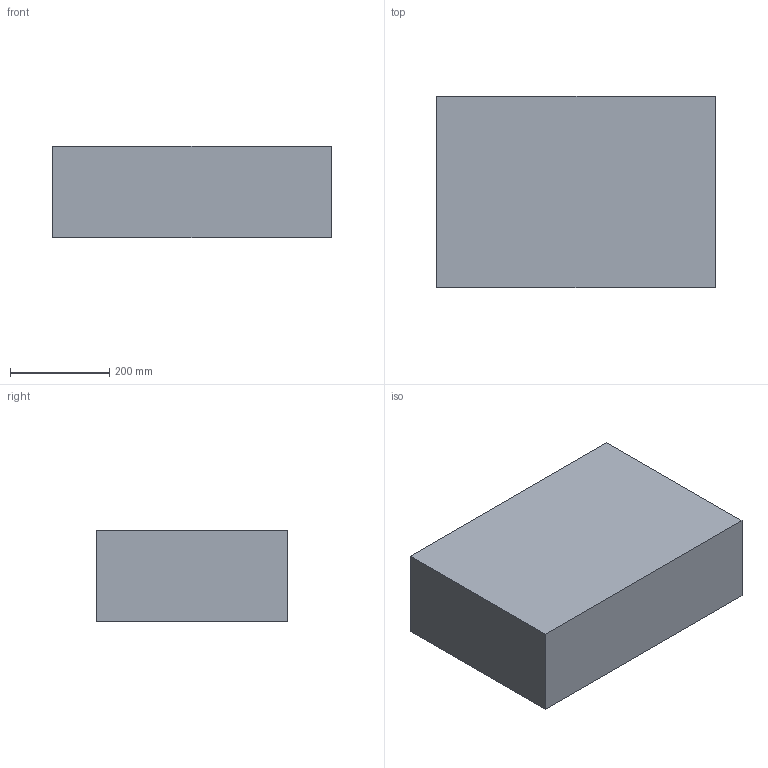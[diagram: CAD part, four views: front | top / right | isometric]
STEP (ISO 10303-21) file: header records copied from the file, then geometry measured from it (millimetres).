
FILE_DESCRIPTION (( 'STEP AP203' ), '1' );
FILE_NAME ('INSIDE drawing bottom 6700 2015 1.1.STEP', '2016-06-06T17:30:02', ( 'Master' ), ( '' ), 'SwSTEP 2.0', 'SolidWorks 2016', '' );
FILE_SCHEMA (( 'CONFIG_CONTROL_DESIGN' ));
Length unit declared in the file: millimetre
Products named in the file (1): INSIDE drawing bottom 6700 2015 1.1
Bounding box: 560 x 385 x 185 mm (x, y, z)
Volume: 6867611.7 mm3; surface area: 1067181.6 mm2
Topology: 1 solids, 1 shells, 221 faces, 512 edges, 302 vertices
Faces by surface type: plane 73, cylinder 61, bspline 61, cone 20, sphere 6
Entity records: 8354 total; most frequent: CARTESIAN_POINT 3847, ORIENTED_EDGE 1008, DIRECTION 814, EDGE_CURVE 504, VERTEX_POINT 302, AXIS2_PLACEMENT_3D 290, EDGE_LOOP 238, VECTOR 234
